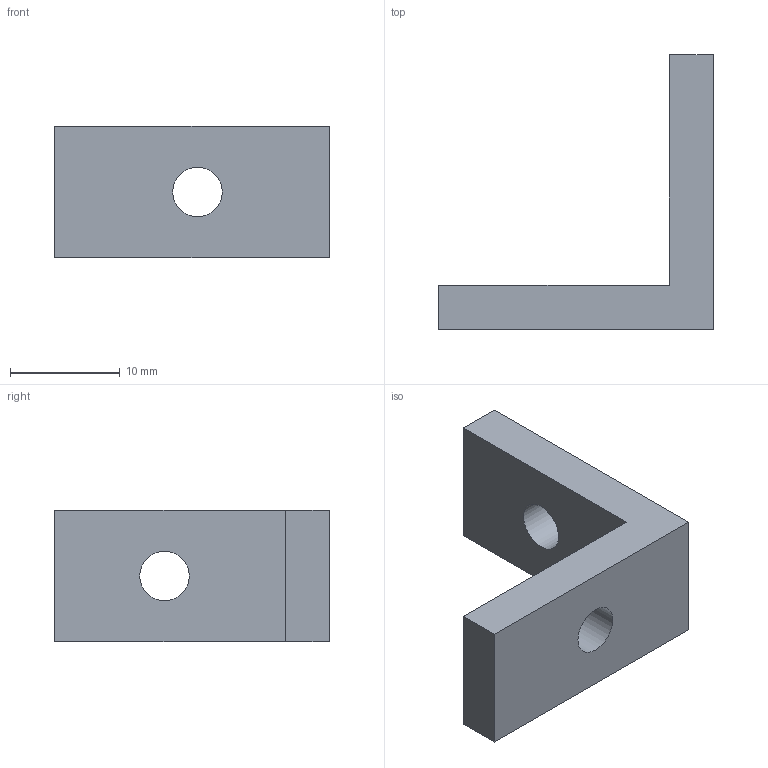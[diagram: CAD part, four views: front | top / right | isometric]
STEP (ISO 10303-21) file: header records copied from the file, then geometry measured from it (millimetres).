
FILE_DESCRIPTION(('Open CASCADE Model'),'2;1');
FILE_NAME('Open CASCADE Shape Model','2026-11-11T10:44:57',('Author'),( 'Open CASCADE'),'Open CASCADE STEP processor 7.9','Open CASCADE 7.9' ,'Unknown');
FILE_SCHEMA(('AUTOMOTIVE_DESIGN { 1 0 10303 214 1 1 1 1 }'));
Length unit declared in the file: millimetre
Products named in the file (1): Open CASCADE STEP translator 7.9 5
Bounding box: 25 x 25 x 12 mm (x, y, z)
Volume: 2080.8 mm3; surface area: 1617.5 mm2
Topology: 1 solids, 1 shells, 10 faces, 24 edges, 16 vertices
Faces by surface type: plane 8, cylinder 2
Full cylindrical faces by diameter (mm): 4.5 x2
Entity records: 622 total; most frequent: CARTESIAN_POINT 99, DIRECTION 98, LINE 64, VECTOR 64, ORIENTED_EDGE 48, PCURVE 48, DEFINITIONAL_REPRESENTATION 48, EDGE_CURVE 24
